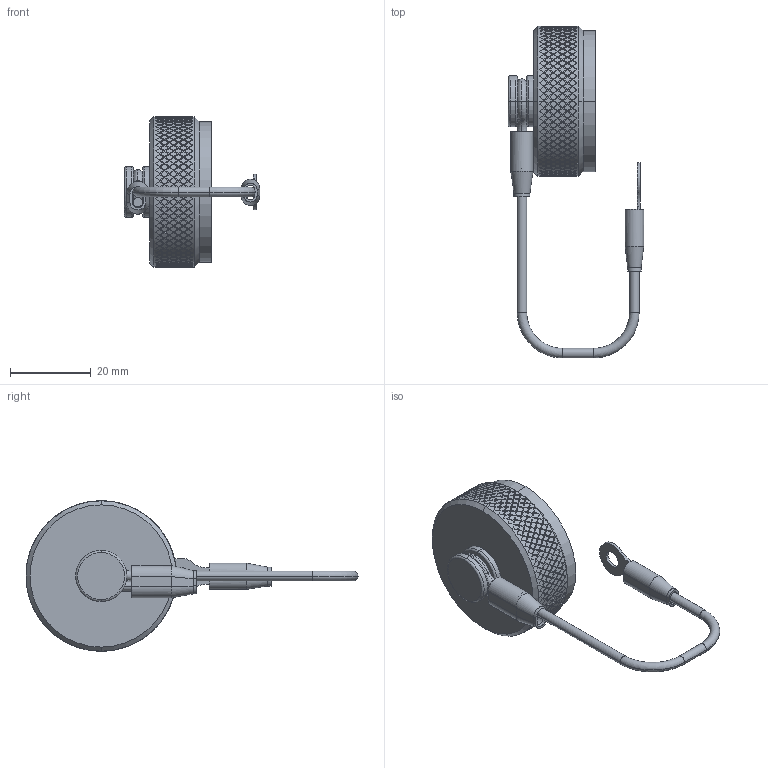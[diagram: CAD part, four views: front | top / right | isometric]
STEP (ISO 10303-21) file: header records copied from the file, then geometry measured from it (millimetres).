
FILE_DESCRIPTION (( 'STEP AP214' ), '1' );
FILE_NAME ('Q38DC-RFX-19-R1.STEP', '2026-04-22T20:08:48', ( '' ), ( '' ), 'SwSTEP 2.0', 'SolidWorks 2024', '' );
FILE_SCHEMA (( 'AUTOMOTIVE_DESIGN' ));
Length unit declared in the file: inch
Products named in the file (9): LN-06-07-13_Q38DC-RFX-19 (Assembled); HEAT SHRINK_HS-250X625_SW-348; HEAT SHRINK_HS-125-625S; Lanyard Assembly Q38_Q38DC-RFX-19; SW-348; SW-347; Q38DC-RFX-19-R1; Q38-XX29-P_19R; Q38-XX48-X_Q38-1948-X
Assembly tree (8 placements, depth 3):
  Q38DC-RFX-19-R1
    Q38-XX48-X_Q38-1948-X
    Lanyard Assembly Q38_Q38DC-RFX-19
      LN-06-07-13_Q38DC-RFX-19 (Assembled)
      SW-348
      HEAT SHRINK_HS-250X625_SW-348
      SW-347
      HEAT SHRINK_HS-125-625S
    Q38-XX29-P_19R
Bounding box: 33.64 x 82.48 x 37.36 mm (x, y, z)
Volume: 8853.6 mm3; surface area: 9850.7 mm2
Topology: 7 solids, 7 shells, 2830 faces, 6990 edges, 4636 vertices
Faces by surface type: plane 2181, cylinder 609, torus 20, bspline 14, cone 6
Entity records: 83943 total; most frequent: CARTESIAN_POINT 29200, ORIENTED_EDGE 13980, DIRECTION 8492, EDGE_CURVE 6990, VERTEX_POINT 4636, EDGE_LOOP 3302, AXIS2_PLACEMENT_3D 3115, FACE_OUTER_BOUND 2830
